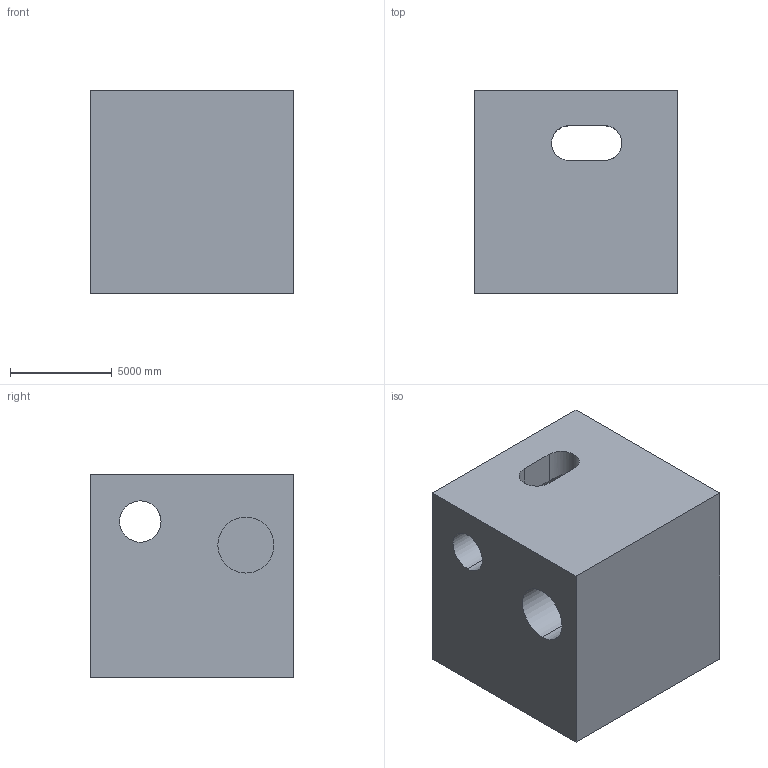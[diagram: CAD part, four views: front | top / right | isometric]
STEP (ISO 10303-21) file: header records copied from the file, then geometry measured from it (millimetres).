
FILE_DESCRIPTION (( 'STEP AP203' ), '1' );
FILE_NAME ('1456.STEP', '2022-08-18T14:35:07', ( 'user' ), ( '' ), 'SwSTEP 2.0', 'SolidWorks 2021', '' );
FILE_SCHEMA (( 'CONFIG_CONTROL_DESIGN' ));
Length unit declared in the file: centimetre
Products named in the file (1): 1456
Bounding box: 10000 x 10000 x 10000 mm (x, y, z)
Volume: 823110440007.7 mm3; surface area: 859854957 mm2
Topology: 1 solids, 1 shells, 28 faces, 78 edges, 52 vertices
Faces by surface type: cylinder 15, plane 13
Entity records: 1623 total; most frequent: CARTESIAN_POINT 805, ORIENTED_EDGE 156, DIRECTION 152, EDGE_CURVE 78, AXIS2_PLACEMENT_3D 55, VERTEX_POINT 52, VECTOR 42, LINE 42
